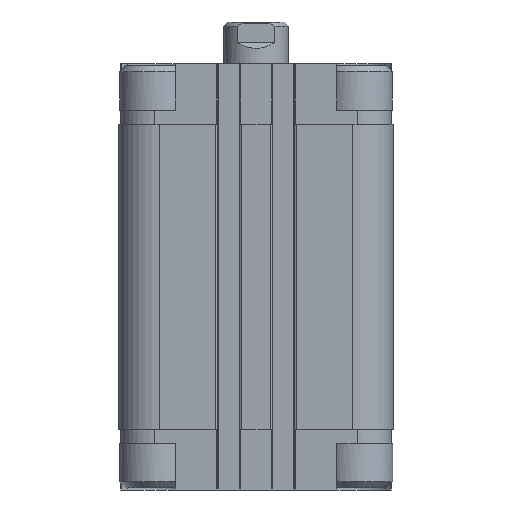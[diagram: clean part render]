
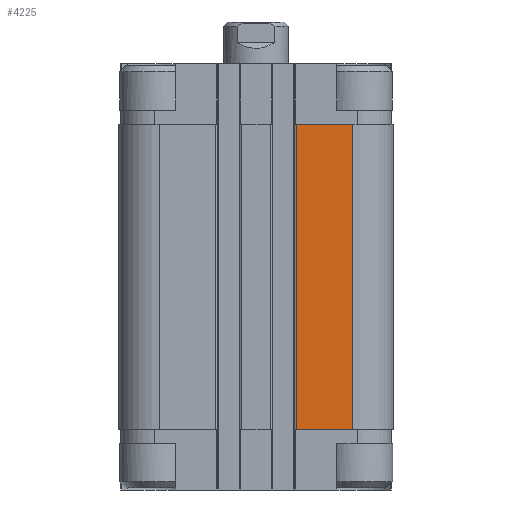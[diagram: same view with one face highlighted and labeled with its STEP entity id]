
A CAD part, front view. The second image highlights one B-rep face of the part: STEP entity #4225.
In plain terms, the highlighted planar face has unit normal (0, -1, 0).
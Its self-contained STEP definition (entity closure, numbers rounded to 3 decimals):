
#2326 = CARTESIAN_POINT ( 'NONE',  ( 24., -34., 90.5 ) ) ;
#2327 = CARTESIAN_POINT ( 'NONE',  ( 9.978, -34., 90.5 ) ) ;
#3167 = DIRECTION ( 'NONE',  ( 0., 0., 1. ) ) ;
#3171 = CARTESIAN_POINT ( 'NONE',  ( 24., -34., 52.75 ) ) ;
#3173 = CARTESIAN_POINT ( 'NONE',  ( 21.739, -34., 15. ) ) ;
#3177 = DIRECTION ( 'NONE',  ( 0., 0., 1. ) ) ;
#3178 = DIRECTION ( 'NONE',  ( 1., 0., 0. ) ) ;
#3180 = CARTESIAN_POINT ( 'NONE',  ( 9.978, -34., 52.75 ) ) ;
#4225 = ADVANCED_FACE ( 'NONE', ( #10866 ), #13981, .F. ) ;
#5124 = ORIENTED_EDGE ( 'NONE', *, *, #17802, .F. ) ;
#5126 = ORIENTED_EDGE ( 'NONE', *, *, #17800, .T. ) ;
#5128 = ORIENTED_EDGE ( 'NONE', *, *, #17799, .T. ) ;
#5130 = ORIENTED_EDGE ( 'NONE', *, *, #13643, .F. ) ;
#5285 = EDGE_LOOP ( 'NONE', ( #5124, #5126, #5128, #5130 ) ) ;
#6296 = VERTEX_POINT ( 'NONE', #8857 ) ;
#6298 = VERTEX_POINT ( 'NONE', #8859 ) ;
#8857 = CARTESIAN_POINT ( 'NONE',  ( 9.978, -34., 15. ) ) ;
#8859 = CARTESIAN_POINT ( 'NONE',  ( 24., -34., 15. ) ) ;
#9498 = CARTESIAN_POINT ( 'NONE',  ( 16.989, -34., 90.5 ) ) ;
#9499 = DIRECTION ( 'NONE',  ( 1., 0., 0. ) ) ;
#9601 = LINE ( 'NONE', #9498, #9603 ) ;
#9603 = VECTOR ( 'NONE', #9499, 1000. ) ;
#10866 = FACE_OUTER_BOUND ( 'NONE', #5285, .T. ) ;
#11368 = AXIS2_PLACEMENT_3D ( 'NONE', #13976, #13984, #13985 ) ;
#13643 = EDGE_CURVE ( 'NONE', #14906, #14904, #9601, .T. ) ;
#13976 = CARTESIAN_POINT ( 'NONE',  ( 9.978, -34., 15. ) ) ;
#13981 = PLANE ( 'NONE',  #11368 ) ;
#13984 = DIRECTION ( 'NONE',  ( 0., 1., 0. ) ) ;
#13985 = DIRECTION ( 'NONE',  ( 0., 0., 1. ) ) ;
#14904 = VERTEX_POINT ( 'NONE', #2326 ) ;
#14906 = VERTEX_POINT ( 'NONE', #2327 ) ;
#16149 = LINE ( 'NONE', #3173, #16155 ) ;
#16151 = LINE ( 'NONE', #3171, #16153 ) ;
#16152 = LINE ( 'NONE', #3180, #16158 ) ;
#16153 = VECTOR ( 'NONE', #3167, 1000. ) ;
#16155 = VECTOR ( 'NONE', #3178, 1000. ) ;
#16158 = VECTOR ( 'NONE', #3177, 1000. ) ;
#17799 = EDGE_CURVE ( 'NONE', #6298, #14904, #16151, .T. ) ;
#17800 = EDGE_CURVE ( 'NONE', #6296, #6298, #16149, .T. ) ;
#17802 = EDGE_CURVE ( 'NONE', #6296, #14906, #16152, .T. ) ;
